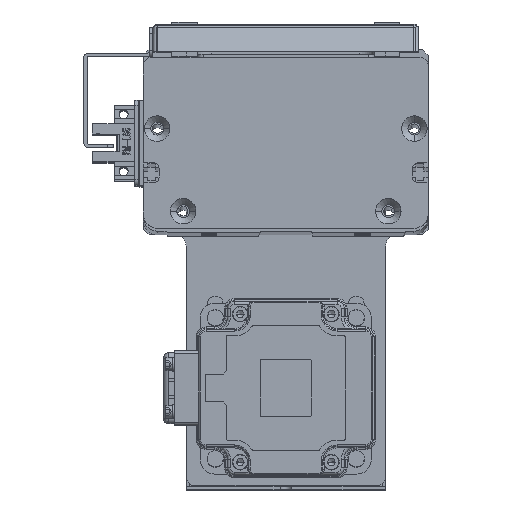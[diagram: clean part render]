
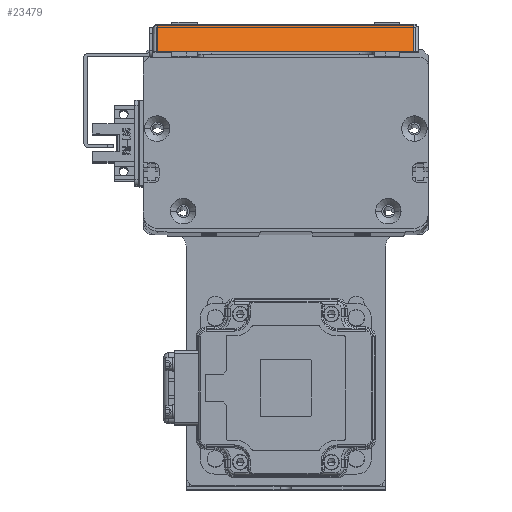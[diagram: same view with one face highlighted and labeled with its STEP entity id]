
A CAD part, top view. The second image highlights one B-rep face of the part: STEP entity #23479.
In plain terms, the highlighted planar face has unit normal (0, 0.707, 0.707) as drawn and (-0.707, 0, -0.707) by its records, which use the part's own axes.
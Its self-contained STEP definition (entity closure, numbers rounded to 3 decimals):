
#1688 = LINE ( 'NONE', #42655, #49806 ) ;
#2644 = CARTESIAN_POINT ( 'NONE',  ( -57.298, 1.7, -5.102 ) ) ;
#2977 = EDGE_CURVE ( 'NONE', #29863, #9118, #33646, .T. ) ;
#5983 = CARTESIAN_POINT ( 'NONE',  ( -68., 91.7, 5.6 ) ) ;
#6303 = VECTOR ( 'NONE', #59479, 1000. ) ;
#7946 = EDGE_CURVE ( 'NONE', #9118, #34511, #8808, .T. ) ;
#8808 = LINE ( 'NONE', #5983, #6303 ) ;
#9118 = VERTEX_POINT ( 'NONE', #25476 ) ;
#13949 = EDGE_CURVE ( 'NONE', #28877, #29863, #61612, .T. ) ;
#16821 = CARTESIAN_POINT ( 'NONE',  ( -57.298, 91.7, -5.102 ) ) ;
#17111 = EDGE_CURVE ( 'NONE', #34511, #28877, #1688, .T. ) ;
#19534 = ORIENTED_EDGE ( 'NONE', *, *, #2977, .T. ) ;
#20016 = DIRECTION ( 'NONE',  ( 0., -1., 0. ) ) ;
#20849 = DIRECTION ( 'NONE',  ( -0.707, 0., -0.707 ) ) ;
#21316 = DIRECTION ( 'NONE',  ( -0.707, 0., 0.707 ) ) ;
#21787 = AXIS2_PLACEMENT_3D ( 'NONE', #48430, #20849, #64667 ) ;
#23065 = DIRECTION ( 'NONE',  ( 0., 1., 0. ) ) ;
#23479 = ADVANCED_FACE ( 'NONE', ( #54564 ), #48671, .T. ) ;
#25236 = ORIENTED_EDGE ( 'NONE', *, *, #7946, .T. ) ;
#25476 = CARTESIAN_POINT ( 'NONE',  ( -66.5, 91.7, 4.1 ) ) ;
#27170 = CARTESIAN_POINT ( 'NONE',  ( -68., 1.7, 5.6 ) ) ;
#28219 = CARTESIAN_POINT ( 'NONE',  ( -66.5, 93.4, 4.1 ) ) ;
#28877 = VERTEX_POINT ( 'NONE', #2644 ) ;
#29863 = VERTEX_POINT ( 'NONE', #38901 ) ;
#30825 = ORIENTED_EDGE ( 'NONE', *, *, #17111, .T. ) ;
#33646 = LINE ( 'NONE', #28219, #48787 ) ;
#34511 = VERTEX_POINT ( 'NONE', #16821 ) ;
#38901 = CARTESIAN_POINT ( 'NONE',  ( -66.5, 1.7, 4.1 ) ) ;
#42655 = CARTESIAN_POINT ( 'NONE',  ( -57.298, 93.4, -5.102 ) ) ;
#44628 = ORIENTED_EDGE ( 'NONE', *, *, #13949, .T. ) ;
#44826 = VECTOR ( 'NONE', #21316, 1000. ) ;
#48430 = CARTESIAN_POINT ( 'NONE',  ( -68., 93.4, 5.6 ) ) ;
#48671 = PLANE ( 'NONE',  #21787 ) ;
#48787 = VECTOR ( 'NONE', #23065, 1000. ) ;
#49806 = VECTOR ( 'NONE', #20016, 1000. ) ;
#54564 = FACE_OUTER_BOUND ( 'NONE', #66125, .T. ) ;
#59479 = DIRECTION ( 'NONE',  ( 0.707, 0., -0.707 ) ) ;
#61612 = LINE ( 'NONE', #27170, #44826 ) ;
#64667 = DIRECTION ( 'NONE',  ( -0.707, 0., 0.707 ) ) ;
#66125 = EDGE_LOOP ( 'NONE', ( #44628, #19534, #25236, #30825 ) ) ;
